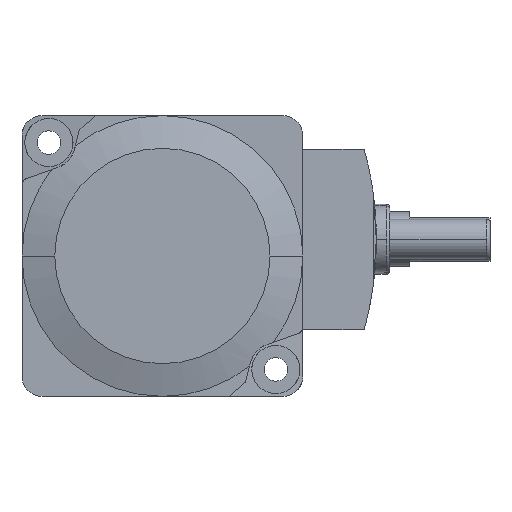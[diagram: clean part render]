
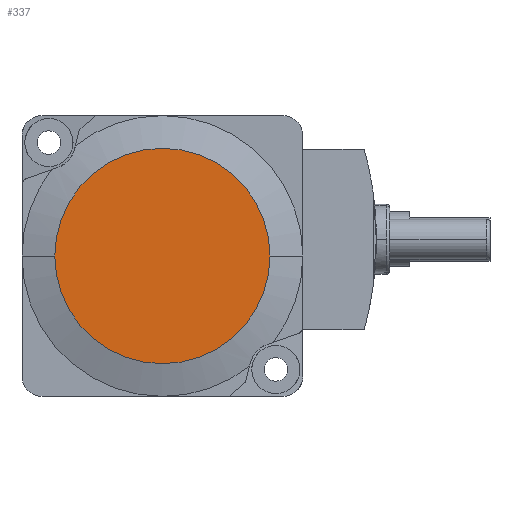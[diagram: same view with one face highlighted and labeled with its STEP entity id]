
A CAD part, left-side view. The second image highlights one B-rep face of the part: STEP entity #337.
In plain terms, the highlighted planar face has unit normal (-1, 0, 0).
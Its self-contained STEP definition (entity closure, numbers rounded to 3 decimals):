
#337 = ADVANCED_FACE( '', ( #887 ), #888, .T. );
#887 = FACE_OUTER_BOUND( '', #1437, .T. );
#888 = PLANE( '', #1438 );
#1437 = EDGE_LOOP( '', ( #3667, #3668 ) );
#1438 = AXIS2_PLACEMENT_3D( '', #3669, #3670, #3671 );
#3667 = ORIENTED_EDGE( '', *, *, #4389, .T. );
#3668 = ORIENTED_EDGE( '', *, *, #3673, .T. );
#3669 = CARTESIAN_POINT( '', ( -88.8, 10.157, 21. ) );
#3670 = DIRECTION( '', ( -1., 0., 0. ) );
#3671 = DIRECTION( '', ( 0., 1., 0. ) );
#3673 = EDGE_CURVE( '', #4397, #4394, #4398, .T. );
#4389 = EDGE_CURVE( '', #4394, #4397, #5590, .T. );
#4394 = VERTEX_POINT( '', #5595 );
#4397 = VERTEX_POINT( '', #5599 );
#4398 = CIRCLE( '', #5600, 16.1 );
#5590 = CIRCLE( '', #7535, 16.1 );
#5595 = CARTESIAN_POINT( '', ( -88.8, 16.1, 0. ) );
#5599 = CARTESIAN_POINT( '', ( -88.8, -16.1, 0. ) );
#5600 = AXIS2_PLACEMENT_3D( '', #7541, #7542, #7543 );
#7535 = AXIS2_PLACEMENT_3D( '', #8709, #8710, #8711 );
#7541 = CARTESIAN_POINT( '', ( -88.8, 0., 0. ) );
#7542 = DIRECTION( '', ( -1., 0., 0. ) );
#7543 = DIRECTION( '', ( 0., 1., 0. ) );
#8709 = CARTESIAN_POINT( '', ( -88.8, 0., 0. ) );
#8710 = DIRECTION( '', ( -1., 0., 0. ) );
#8711 = DIRECTION( '', ( 0., 1., 0. ) );
